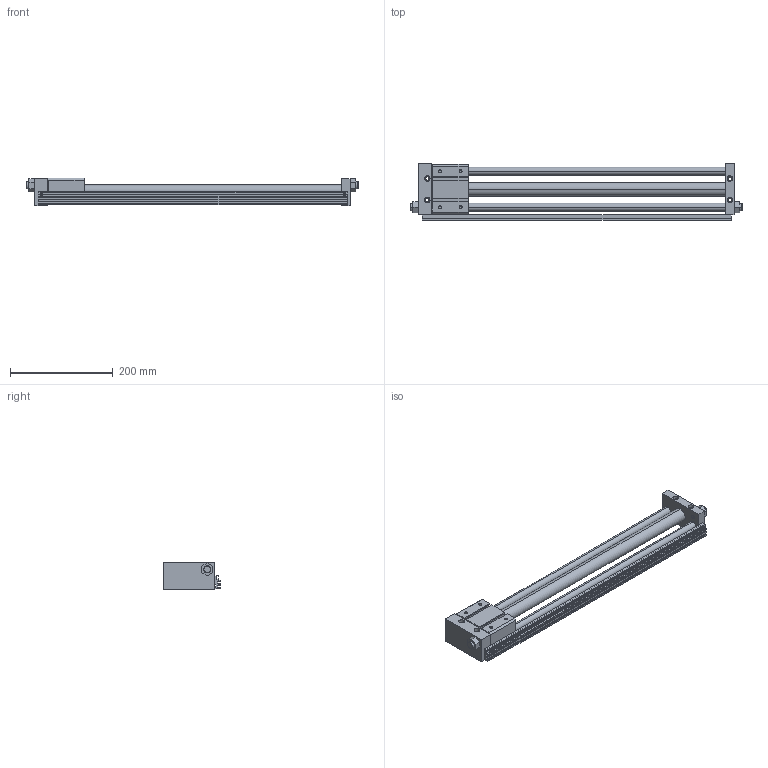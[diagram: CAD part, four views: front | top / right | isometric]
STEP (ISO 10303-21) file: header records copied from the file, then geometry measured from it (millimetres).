
FILE_DESCRIPTION((''),'2;1');
FILE_NAME('C:\Documents and Settings\Administrator\桌面\GYS\GYS25\GYSR25X500.stp','2012-03-06T10:26:06',('Administrator'),(''),'Autodesk Inventor 8','Autodesk Inventor 8','');
FILE_SCHEMA(('AUTOMOTIVE_DESIGN { 1 0 10303 214 1 1 1 1 }'));
Length unit declared in the file: millimetre
Products named in the file (3): GYSR25X500; GYS25X500; GYS25160X500
Assembly tree (2 placements, depth 2):
  GYSR25X500
    GYS25X500
    GYS25160X500
Bounding box: 647 x 110.5 x 54 mm (x, y, z)
Volume: 1111002.4 mm3; surface area: 236887.6 mm2
Topology: 2 solids, 2 shells, 276 faces, 718 edges, 468 vertices
Faces by surface type: plane 154, cylinder 80, cone 32, bspline 10
Entity records: 8662 total; most frequent: CARTESIAN_POINT 1609, DIRECTION 1476, ORIENTED_EDGE 1436, EDGE_CURVE 718, VECTOR 502, LINE 502, AXIS2_PLACEMENT_3D 487, VERTEX_POINT 468
